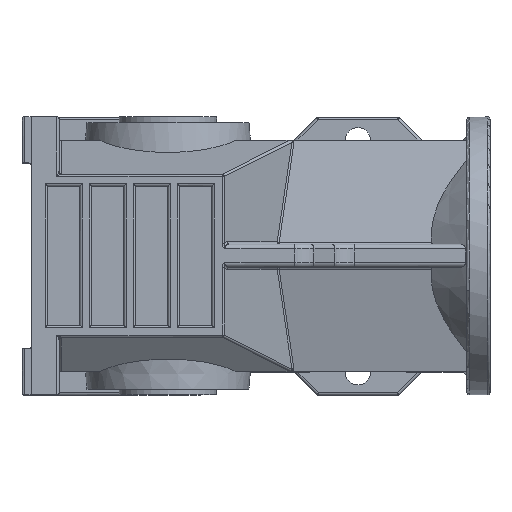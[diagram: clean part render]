
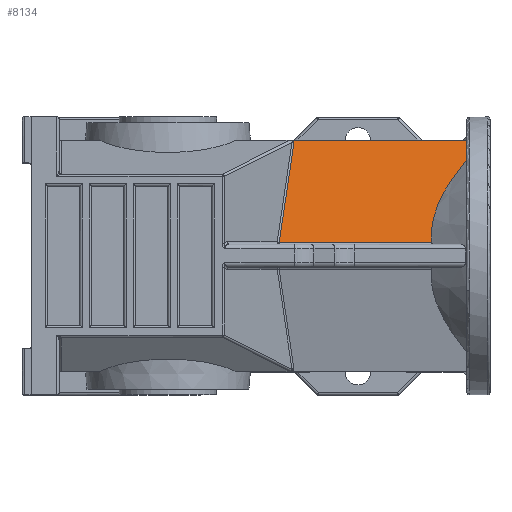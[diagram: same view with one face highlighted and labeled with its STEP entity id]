
A CAD part, top view. The second image highlights one B-rep face of the part: STEP entity #8134.
In plain terms, the highlighted planar face has unit normal (0, 0.217, 0.976).
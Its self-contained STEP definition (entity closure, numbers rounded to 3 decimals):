
#315=CARTESIAN_POINT('',(18.512,50.,120.0));
#316=VERTEX_POINT('',#315);
#6658=CARTESIAN_POINT('',(93.5,42.438,121.68));
#6659=VERTEX_POINT('',#6658);
#6667=CARTESIAN_POINT('',(93.143,41.311,121.931));
#6668=VERTEX_POINT('',#6667);
#6669=CARTESIAN_POINT('',(93.143,41.311,121.931));
#6670=CARTESIAN_POINT('',(93.186,41.365,121.919));
#6671=CARTESIAN_POINT('',(93.227,41.426,121.905));
#6672=CARTESIAN_POINT('',(93.264,41.491,121.891));
#6673=CARTESIAN_POINT('',(93.309,41.57,121.873));
#6674=CARTESIAN_POINT('',(93.348,41.655,121.855));
#6675=CARTESIAN_POINT('',(93.378,41.736,121.836));
#6676=CARTESIAN_POINT('',(93.404,41.807,121.821));
#6677=CARTESIAN_POINT('',(93.425,41.875,121.805));
#6678=CARTESIAN_POINT('',(93.443,41.951,121.789));
#6679=CARTESIAN_POINT('',(93.481,42.11,121.753));
#6680=CARTESIAN_POINT('',(93.5,42.285,121.714));
#6681=CARTESIAN_POINT('',(93.5,42.438,121.68));
#6682=B_SPLINE_CURVE_WITH_KNOTS('',3,(#6669,#6670,#6671,#6672,#6673,#6674,#6675,#6676,#6677,#6678,#6679,#6680,#6681),.UNSPECIFIED.,.F.,.U.,(4,3,3,3,4),(0.445,0.466,0.491,0.514,0.561),.UNSPECIFIED.);
#6683=EDGE_CURVE('',#6668,#6659,#6682,.T.);
#6762=CARTESIAN_POINT('',(78.187,5.783,129.826));
#6763=VERTEX_POINT('',#6762);
#6764=CARTESIAN_POINT('',(78.187,5.783,129.826));
#6765=CARTESIAN_POINT('',(76.902,21.072,126.428));
#6766=CARTESIAN_POINT('',(93.143,41.311,121.931));
#6774=(BOUNDED_CURVE()B_SPLINE_CURVE(2,(#6764,#6765,#6766),.UNSPECIFIED.,.F.,.U.)B_SPLINE_CURVE_WITH_KNOTS((3,3),(3.408,7.462),.UNSPECIFIED.)CURVE()GEOMETRIC_REPRESENTATION_ITEM()RATIONAL_B_SPLINE_CURVE((1.166,1.182,1.003))REPRESENTATION_ITEM(''));
#6775=EDGE_CURVE('',#6763,#6668,#6774,.T.);
#7003=CARTESIAN_POINT('',(93.5,50.,120.0));
#7004=VERTEX_POINT('',#7003);
#7011=CARTESIAN_POINT('',(93.5,50.,120.0));
#7012=DIRECTION('',(0.0,-0.976,0.217));
#7013=VECTOR('',#7012,7.747);
#7014=LINE('',#7011,#7013);
#7015=EDGE_CURVE('',#7004,#6659,#7014,.T.);
#7923=CARTESIAN_POINT('',(12.5,5.783,129.826));
#7924=VERTEX_POINT('',#7923);
#7932=CARTESIAN_POINT('',(18.855,48.675,120.294));
#7933=VERTEX_POINT('',#7932);
#7934=CARTESIAN_POINT('',(12.5,5.783,129.826));
#7935=DIRECTION('',(0.143,0.966,-0.215));
#7936=VECTOR('',#7935,44.396);
#7937=LINE('',#7934,#7936);
#7938=EDGE_CURVE('',#7924,#7933,#7937,.T.);
#8028=CARTESIAN_POINT('',(16.392,48.276,120.383));
#8029=DIRECTION('',(0.,0.217,0.976));
#8030=DIRECTION('',(0.776,0.616,-0.137));
#8031=AXIS2_PLACEMENT_3D('',#8028,#8029,#8030);
#8032=ELLIPSE('',#8031,2.76,2.);
#8033=EDGE_CURVE('',#7933,#316,#8032,.T.);
#8044=CARTESIAN_POINT('',(78.187,5.783,129.826));
#8045=DIRECTION('',(-1.0,0.0,0.0));
#8046=VECTOR('',#8045,65.687);
#8047=LINE('',#8044,#8046);
#8048=EDGE_CURVE('',#6763,#7924,#8047,.T.);
#8115=CARTESIAN_POINT('',(58.5,27.5,125.0));
#8116=DIRECTION('',(0.0,0.217,0.976));
#8117=DIRECTION('',(1.0,0.0,0.0));
#8118=AXIS2_PLACEMENT_3D('',#8115,#8116,#8117);
#8119=PLANE('',#8118);
#8120=ORIENTED_EDGE('',*,*,#6683,.T.);
#8121=ORIENTED_EDGE('',*,*,#7015,.F.);
#8122=CARTESIAN_POINT('',(93.5,50.,120.0));
#8123=DIRECTION('',(-1.0,0.0,0.0));
#8124=VECTOR('',#8123,74.988);
#8125=LINE('',#8122,#8124);
#8126=EDGE_CURVE('',#7004,#316,#8125,.T.);
#8127=ORIENTED_EDGE('',*,*,#8126,.T.);
#8128=ORIENTED_EDGE('',*,*,#8033,.F.);
#8129=ORIENTED_EDGE('',*,*,#7938,.F.);
#8130=ORIENTED_EDGE('',*,*,#8048,.F.);
#8131=ORIENTED_EDGE('',*,*,#6775,.T.);
#8132=EDGE_LOOP('',(#8120,#8121,#8127,#8128,#8129,#8130,#8131));
#8133=FACE_OUTER_BOUND('',#8132,.T.);
#8134=ADVANCED_FACE('',(#8133),#8119,.T.);
